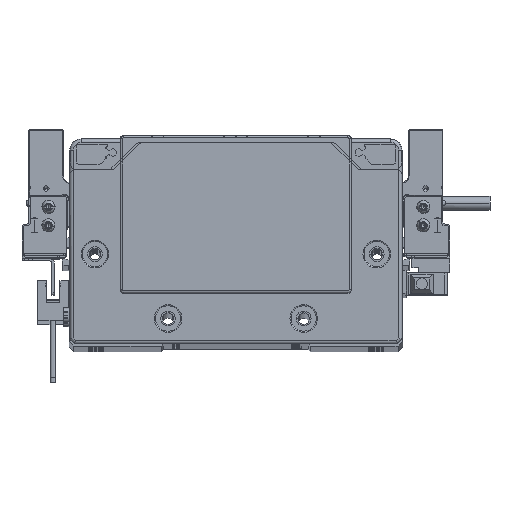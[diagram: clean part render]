
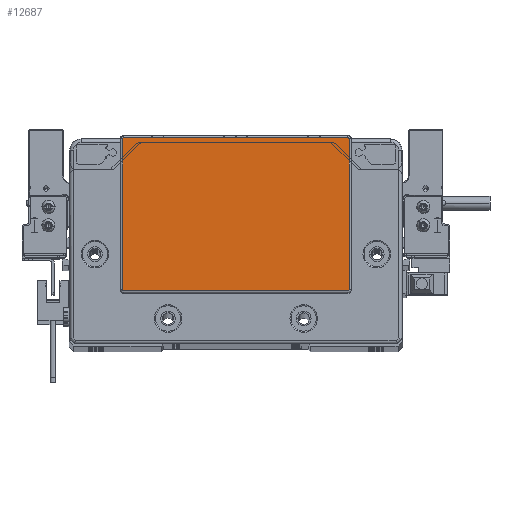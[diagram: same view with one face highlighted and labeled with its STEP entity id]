
A CAD part, top view. The second image highlights one B-rep face of the part: STEP entity #12687.
In plain terms, the highlighted planar face has unit normal (0, 0, 1) as drawn and (0, 0, -1) by its records, which use the part's own axes.
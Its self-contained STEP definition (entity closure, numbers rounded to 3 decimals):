
#270 = PLANE ( 'NONE',  #90139 ) ;
#326 = CARTESIAN_POINT ( 'NONE',  ( -48.75, 43.8, -2. ) ) ;
#386 = EDGE_CURVE ( 'NONE', #92071, #76148, #42595, .T. ) ;
#3172 = ORIENTED_EDGE ( 'NONE', *, *, #95668, .T. ) ;
#3548 = VERTEX_POINT ( 'NONE', #60801 ) ;
#5030 = EDGE_CURVE ( 'NONE', #22621, #3548, #65185, .T. ) ;
#6049 = EDGE_CURVE ( 'NONE', #3548, #92071, #72126, .T. ) ;
#6145 = ORIENTED_EDGE ( 'NONE', *, *, #43764, .T. ) ;
#9890 = CARTESIAN_POINT ( 'NONE',  ( 48.75, 44.3, -2. ) ) ;
#10872 = DIRECTION ( 'NONE',  ( 1., 0., 0. ) ) ;
#12687 = ADVANCED_FACE ( 'NONE', ( #83476 ), #270, .T. ) ;
#14058 = VERTEX_POINT ( 'NONE', #80600 ) ;
#14641 = DIRECTION ( 'NONE',  ( 0., 0., -1. ) ) ;
#18626 = DIRECTION ( 'NONE',  ( -1., 0., 0. ) ) ;
#19103 = CARTESIAN_POINT ( 'NONE',  ( -48.75, -21.8, -2. ) ) ;
#22609 = CARTESIAN_POINT ( 'NONE',  ( -49.25, 43.8, -2. ) ) ;
#22621 = VERTEX_POINT ( 'NONE', #72938 ) ;
#23040 = CIRCLE ( 'NONE', #24586, 0.5 ) ;
#23450 = VERTEX_POINT ( 'NONE', #64827 ) ;
#23708 = ORIENTED_EDGE ( 'NONE', *, *, #85796, .T. ) ;
#24586 = AXIS2_PLACEMENT_3D ( 'NONE', #326, #14641, #83535 ) ;
#29008 = VECTOR ( 'NONE', #37862, 1000. ) ;
#29403 = ORIENTED_EDGE ( 'NONE', *, *, #5030, .T. ) ;
#35806 = DIRECTION ( 'NONE',  ( 0., 0., -1. ) ) ;
#37862 = DIRECTION ( 'NONE',  ( 0., 1., 0. ) ) ;
#38183 = DIRECTION ( 'NONE',  ( -1., 0., 0. ) ) ;
#38696 = CARTESIAN_POINT ( 'NONE',  ( -48.75, -22.3, -2. ) ) ;
#42089 = CARTESIAN_POINT ( 'NONE',  ( 49.25, -21.8, -2. ) ) ;
#42595 = LINE ( 'NONE', #49361, #49148 ) ;
#43764 = EDGE_CURVE ( 'NONE', #56264, #23450, #23040, .T. ) ;
#44417 = EDGE_LOOP ( 'NONE', ( #29403, #60942, #90874, #3172, #66959, #6145, #23708, #59255 ) ) ;
#48875 = DIRECTION ( 'NONE',  ( -1., 0., 0. ) ) ;
#49148 = VECTOR ( 'NONE', #48875, 1000. ) ;
#49361 = CARTESIAN_POINT ( 'NONE',  ( -48.75, -22.3, -2. ) ) ;
#54058 = LINE ( 'NONE', #22609, #29008 ) ;
#55377 = CARTESIAN_POINT ( 'NONE',  ( -49.25, 43.8, -2. ) ) ;
#56264 = VERTEX_POINT ( 'NONE', #55377 ) ;
#59255 = ORIENTED_EDGE ( 'NONE', *, *, #61081, .T. ) ;
#60302 = CIRCLE ( 'NONE', #88551, 0.5 ) ;
#60327 = CARTESIAN_POINT ( 'NONE',  ( 0., 0., -2. ) ) ;
#60801 = CARTESIAN_POINT ( 'NONE',  ( 49.25, -21.8, -2. ) ) ;
#60942 = ORIENTED_EDGE ( 'NONE', *, *, #6049, .T. ) ;
#61081 = EDGE_CURVE ( 'NONE', #14058, #22621, #91274, .T. ) ;
#63320 = CARTESIAN_POINT ( 'NONE',  ( 48.75, -22.3, -2. ) ) ;
#64827 = CARTESIAN_POINT ( 'NONE',  ( -48.75, 44.3, -2. ) ) ;
#65185 = LINE ( 'NONE', #42089, #95695 ) ;
#66959 = ORIENTED_EDGE ( 'NONE', *, *, #86689, .T. ) ;
#67399 = AXIS2_PLACEMENT_3D ( 'NONE', #73821, #87151, #88578 ) ;
#67671 = AXIS2_PLACEMENT_3D ( 'NONE', #79134, #85543, #18626 ) ;
#72126 = CIRCLE ( 'NONE', #67399, 0.5 ) ;
#72938 = CARTESIAN_POINT ( 'NONE',  ( 49.25, 43.8, -2. ) ) ;
#73821 = CARTESIAN_POINT ( 'NONE',  ( 48.75, -21.8, -2. ) ) ;
#76148 = VERTEX_POINT ( 'NONE', #38696 ) ;
#78303 = LINE ( 'NONE', #9890, #90422 ) ;
#79134 = CARTESIAN_POINT ( 'NONE',  ( 48.75, 43.8, -2. ) ) ;
#79987 = DIRECTION ( 'NONE',  ( 0., -1., 0. ) ) ;
#80600 = CARTESIAN_POINT ( 'NONE',  ( 48.75, 44.3, -2. ) ) ;
#83137 = CARTESIAN_POINT ( 'NONE',  ( -49.25, -21.8, -2. ) ) ;
#83476 = FACE_OUTER_BOUND ( 'NONE', #44417, .T. ) ;
#83535 = DIRECTION ( 'NONE',  ( -1., 0., 0. ) ) ;
#85543 = DIRECTION ( 'NONE',  ( 0., 0., -1. ) ) ;
#85796 = EDGE_CURVE ( 'NONE', #23450, #14058, #78303, .T. ) ;
#86689 = EDGE_CURVE ( 'NONE', #95471, #56264, #54058, .T. ) ;
#86996 = DIRECTION ( 'NONE',  ( -1., 0., 0. ) ) ;
#87151 = DIRECTION ( 'NONE',  ( 0., 0., -1. ) ) ;
#88551 = AXIS2_PLACEMENT_3D ( 'NONE', #19103, #35806, #86996 ) ;
#88578 = DIRECTION ( 'NONE',  ( -1., 0., 0. ) ) ;
#90139 = AXIS2_PLACEMENT_3D ( 'NONE', #60327, #90357, #38183 ) ;
#90357 = DIRECTION ( 'NONE',  ( 0., 0., -1. ) ) ;
#90422 = VECTOR ( 'NONE', #10872, 1000. ) ;
#90874 = ORIENTED_EDGE ( 'NONE', *, *, #386, .T. ) ;
#91274 = CIRCLE ( 'NONE', #67671, 0.5 ) ;
#92071 = VERTEX_POINT ( 'NONE', #63320 ) ;
#95471 = VERTEX_POINT ( 'NONE', #83137 ) ;
#95668 = EDGE_CURVE ( 'NONE', #76148, #95471, #60302, .T. ) ;
#95695 = VECTOR ( 'NONE', #79987, 1000. ) ;
